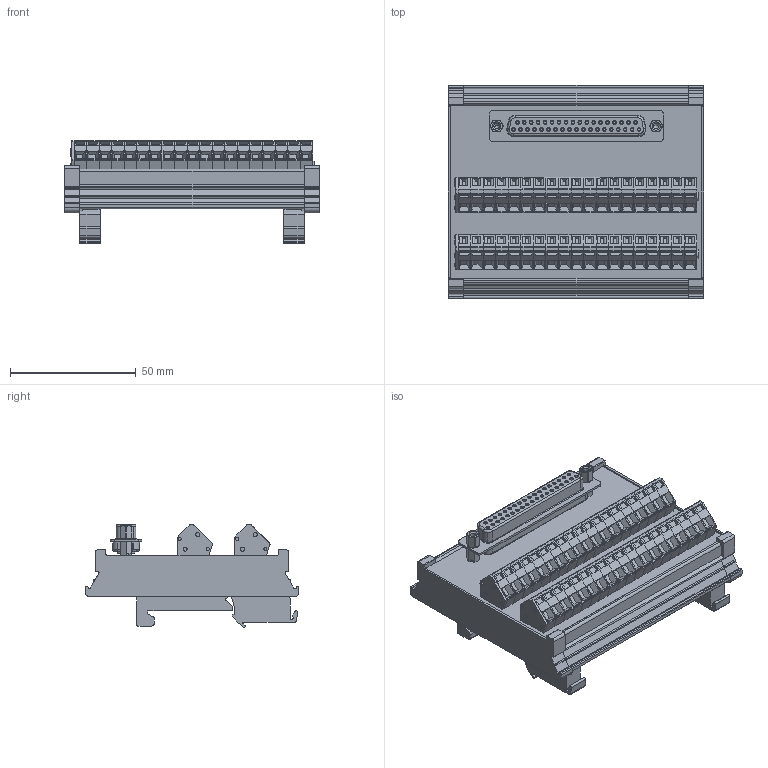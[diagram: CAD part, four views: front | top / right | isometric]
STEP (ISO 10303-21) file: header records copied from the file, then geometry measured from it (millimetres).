
FILE_DESCRIPTION((''),'2;1');
FILE_NAME('PRT0001','2021-01-11T11:18:02',('choskins'),(''),'CREO PARAMETRIC BY PTC INC, 2019224','CREO PARAMETRIC BY PTC INC, 2019224','');
FILE_SCHEMA(('AUTOMOTIVE_DESIGN { 1 0 10303 214 1 1 1 1 }'));
Products named in the file (1): PRT0001
Bounding box: 101.88 x 85.05 x 41.01 mm (x, y, z)
Surface area: 68946.4 mm2
Topology: 4 solids, 161 shells, 2752 faces, 7522 edges, 4931 vertices
Faces by surface type: plane 1824, cylinder 798, cone 102, torus 28
Entity records: 111933 total; most frequent: CARTESIAN_POINT 18407, DIRECTION 14256, ORIENTED_EDGE 13709, PRESENTATION_STYLE_ASSIGNMENT 7653, STYLED_ITEM 7652, EDGE_CURVE 7518, CURVE_STYLE 7471, VECTOR 5511
